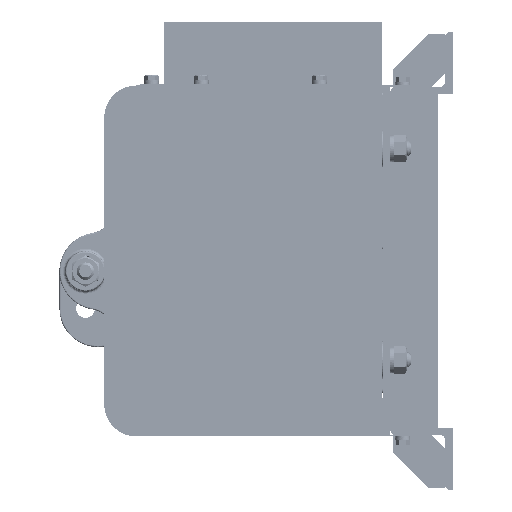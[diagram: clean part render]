
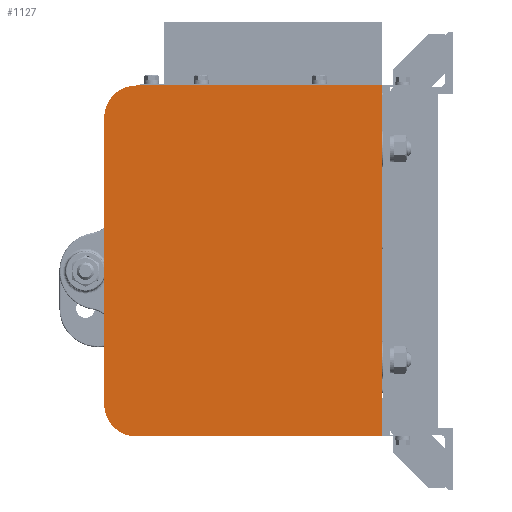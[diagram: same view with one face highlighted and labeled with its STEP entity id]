
A CAD part, left-side view. The second image highlights one B-rep face of the part: STEP entity #1127.
In plain terms, the highlighted planar face has unit normal (-1, 0, 0).
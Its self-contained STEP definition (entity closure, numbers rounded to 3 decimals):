
#1127=ADVANCED_FACE('',(#14788),#14787,.F.);
#14787=PLANE('',#54813);
#14788=FACE_OUTER_BOUND('',#54814,.T.);
#54810=CARTESIAN_POINT('',(-1449.119,-1250.388,-1154.275));
#54811=DIRECTION('',(1.,0.,0.));
#54812=DIRECTION('',(0.,0.,-1.));
#54813=AXIS2_PLACEMENT_3D('',#54810,#54811,#54812);
#54814=EDGE_LOOP('',(#102408,#102409,#102410,#102411,#102412,#102413));
#102408=ORIENTED_EDGE('',*,*,#121607,.F.);
#102409=ORIENTED_EDGE('',*,*,#121667,.F.);
#102410=ORIENTED_EDGE('',*,*,#121556,.F.);
#102411=ORIENTED_EDGE('',*,*,#121568,.F.);
#102412=ORIENTED_EDGE('',*,*,#121668,.F.);
#102413=ORIENTED_EDGE('',*,*,#121669,.F.);
#121556=EDGE_CURVE('',#154132,#154139,#154140,.T.);
#121568=EDGE_CURVE('',#154211,#154132,#154218,.T.);
#121607=EDGE_CURVE('',#154465,#154472,#154473,.T.);
#121667=EDGE_CURVE('',#154139,#154465,#154877,.T.);
#121668=EDGE_CURVE('',#154883,#154211,#154884,.T.);
#121669=EDGE_CURVE('',#154472,#154883,#154890,.T.);
#154132=VERTEX_POINT('',#219386);
#154139=VERTEX_POINT('',#219390);
#154140=LINE('',#219391,#219392);
#154211=VERTEX_POINT('',#219438);
#154218=CIRCLE('',#219445,26.);
#154465=VERTEX_POINT('',#219577);
#154472=VERTEX_POINT('',#219581);
#154473=LINE('',#219582,#219583);
#154877=LINE('',#219851,#219852);
#154883=VERTEX_POINT('',#219854);
#154884=LINE('',#219855,#219856);
#154890=CIRCLE('',#219861,26.);
#219386=CARTESIAN_POINT('',(-1449.119,-1043.388,-1164.275));
#219390=CARTESIAN_POINT('',(-1449.119,-1240.388,-1164.275));
#219391=CARTESIAN_POINT('',(-1449.119,-1043.388,-1164.275));
#219392=VECTOR('',#219393,197.);
#219393=DIRECTION('',(0.,-1.,0.));
#219438=CARTESIAN_POINT('',(-1449.119,-1017.388,-1190.275));
#219442=CARTESIAN_POINT('',(-1449.119,-1043.388,-1190.275));
#219443=DIRECTION('',(1.,0.,0.));
#219444=DIRECTION('',(0.,-1.,0.));
#219445=AXIS2_PLACEMENT_3D('',#219442,#219443,#219444);
#219577=CARTESIAN_POINT('',(-1449.119,-1240.388,-1446.275));
#219581=CARTESIAN_POINT('',(-1449.119,-1043.388,-1446.275));
#219582=CARTESIAN_POINT('',(-1449.119,-1240.388,-1446.275));
#219583=VECTOR('',#219584,197.);
#219584=DIRECTION('',(0.,1.,0.));
#219851=CARTESIAN_POINT('',(-1449.119,-1240.388,-1164.275));
#219852=VECTOR('',#219853,282.);
#219853=DIRECTION('',(0.,0.,-1.));
#219854=CARTESIAN_POINT('',(-1449.119,-1017.388,-1420.275));
#219855=CARTESIAN_POINT('',(-1449.119,-1017.388,-1420.275));
#219856=VECTOR('',#219857,230.);
#219857=DIRECTION('',(0.,0.,1.));
#219858=CARTESIAN_POINT('',(-1449.119,-1043.388,-1420.275));
#219859=DIRECTION('',(1.,0.,0.));
#219860=DIRECTION('',(0.,0.,1.));
#219861=AXIS2_PLACEMENT_3D('',#219858,#219859,#219860);
